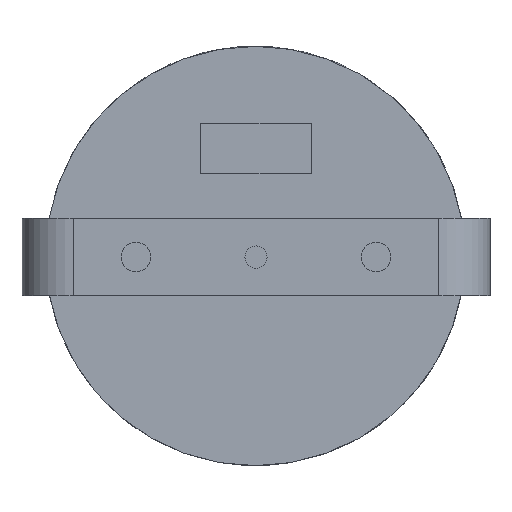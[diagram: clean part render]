
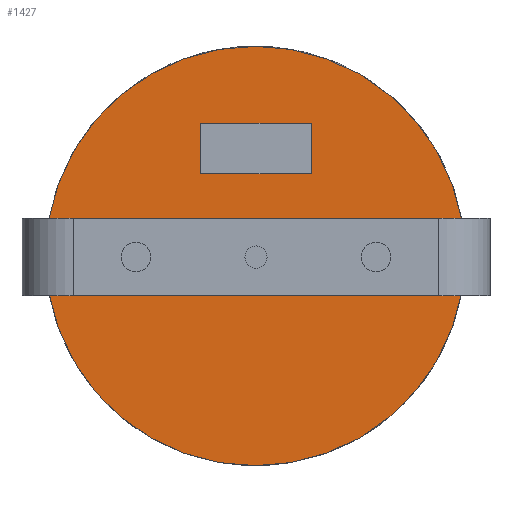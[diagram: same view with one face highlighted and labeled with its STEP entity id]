
A CAD part, front view. The second image highlights one B-rep face of the part: STEP entity #1427.
In plain terms, the highlighted planar face has unit normal (-0.001, -1, -0.001).
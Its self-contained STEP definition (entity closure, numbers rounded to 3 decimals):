
#59=FACE_BOUND('',#317,.T.);
#119=CIRCLE('',#1660,122.229);
#225=FACE_OUTER_BOUND('',#316,.T.);
#316=EDGE_LOOP('',(#1303));
#317=EDGE_LOOP('',(#1304,#1305,#1306,#1307));
#389=LINE('',#2332,#519);
#393=LINE('',#2340,#523);
#396=LINE('',#2346,#526);
#399=LINE('',#2351,#529);
#519=VECTOR('',#1930,10.);
#523=VECTOR('',#1936,10.);
#526=VECTOR('',#1941,10.);
#529=VECTOR('',#1946,10.);
#656=VERTEX_POINT('',#2330);
#657=VERTEX_POINT('',#2331);
#660=VERTEX_POINT('',#2339);
#662=VERTEX_POINT('',#2345);
#707=VERTEX_POINT('',#3262);
#828=EDGE_CURVE('',#656,#657,#389,.T.);
#832=EDGE_CURVE('',#657,#660,#393,.T.);
#835=EDGE_CURVE('',#660,#662,#396,.T.);
#838=EDGE_CURVE('',#662,#656,#399,.T.);
#900=EDGE_CURVE('',#707,#707,#119,.T.);
#1303=ORIENTED_EDGE('',*,*,#900,.T.);
#1304=ORIENTED_EDGE('',*,*,#828,.T.);
#1305=ORIENTED_EDGE('',*,*,#832,.T.);
#1306=ORIENTED_EDGE('',*,*,#835,.T.);
#1307=ORIENTED_EDGE('',*,*,#838,.T.);
#1352=PLANE('',#1667);
#1427=ADVANCED_FACE('',(#225,#59),#1352,.F.);
#1660=AXIS2_PLACEMENT_3D('',#3263,#2059,#2060);
#1667=AXIS2_PLACEMENT_3D('',#3940,#2079,#2080);
#1930=DIRECTION('',(0.,0.001,-1.));
#1936=DIRECTION('',(-1.,0.001,0.));
#1941=DIRECTION('',(0.,-0.001,1.));
#1946=DIRECTION('',(1.,-0.001,0.));
#2059=DIRECTION('center_axis',(-0.001,-1.,
-0.001));
#2060=DIRECTION('ref_axis',(-1.,0.001,0.));
#2079=DIRECTION('center_axis',(0.001,1.,0.001));
#2080=DIRECTION('ref_axis',(-1.,0.001,0.));
#2330=CARTESIAN_POINT('',(32.2,0.032,77.85));
#2331=CARTESIAN_POINT('',(32.2,0.048,48.45));
#2332=CARTESIAN_POINT('',(32.2,0.06,24.48));
#2339=CARTESIAN_POINT('',(-32.2,0.102,48.45));
#2340=CARTESIAN_POINT('',(-16.331,0.089,48.45));
#2345=CARTESIAN_POINT('',(-32.2,0.087,77.85));
#2346=CARTESIAN_POINT('',(-32.2,0.107,39.18));
#2351=CARTESIAN_POINT('',(15.869,0.046,77.85));
#3262=CARTESIAN_POINT('',(121.766,-0.003,0.51));
#3263=CARTESIAN_POINT('Origin',(-0.463,0.1,0.51));
#3940=CARTESIAN_POINT('Origin',(-0.463,0.1,0.51));
